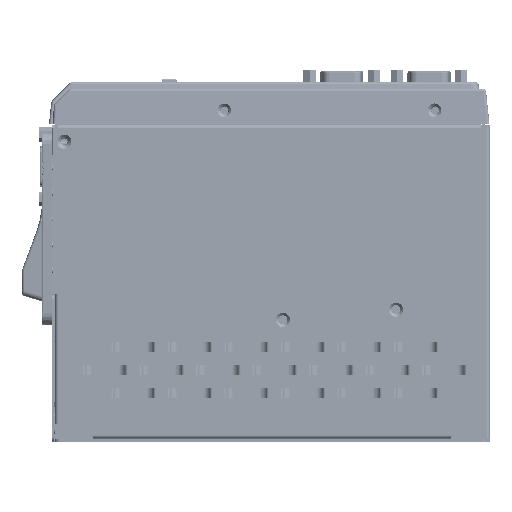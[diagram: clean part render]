
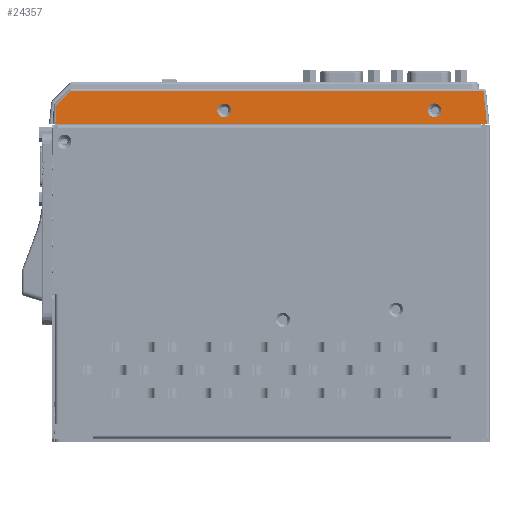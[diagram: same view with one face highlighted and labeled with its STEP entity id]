
A CAD part, front view. The second image highlights one B-rep face of the part: STEP entity #24357.
In plain terms, the highlighted planar face has unit normal (0, -0.999, 0.052).
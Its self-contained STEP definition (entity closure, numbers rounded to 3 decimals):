
#8860 = EDGE_CURVE ( 'NONE', #8866, #9126, #44046, .T. ) ;
#8866 = VERTEX_POINT ( 'NONE', #44053 ) ;
#9040 = VERTEX_POINT ( 'NONE', #45484 ) ;
#9056 = EDGE_CURVE ( 'NONE', #9058, #9040, #45418, .T. ) ;
#9058 = VERTEX_POINT ( 'NONE', #45415 ) ;
#9126 = VERTEX_POINT ( 'NONE', #46705 ) ;
#19108 = VERTEX_POINT ( 'NONE', #111988 ) ;
#19228 = VERTEX_POINT ( 'NONE', #113533 ) ;
#19414 = VERTEX_POINT ( 'NONE', #114808 ) ;
#21701 = EDGE_CURVE ( 'NONE', #9126, #8866, #134106, .T. ) ;
#21830 = EDGE_CURVE ( 'NONE', #19108, #19228, #135096, .T. ) ;
#21872 = EDGE_CURVE ( 'NONE', #9040, #9058, #135347, .T. ) ;
#22011 = EDGE_CURVE ( 'NONE', #19414, #19108, #136599, .T. ) ;
#22167 = VERTEX_POINT ( 'NONE', #137767 ) ;
#22179 = EDGE_CURVE ( 'NONE', #19228, #22167, #137758, .T. ) ;
#22197 = VERTEX_POINT ( 'NONE', #138215 ) ;
#22443 = EDGE_CURVE ( 'NONE', #22197, #19414, #140665, .T. ) ;
#24357 = ADVANCED_FACE ( 'NONE', ( #153634, #153633, #153630 ), #153817, .T. ) ;
#24361 = EDGE_LOOP ( 'NONE', ( #24623, #24631, #24664, #24669, #24675 ) ) ;
#24448 = ORIENTED_EDGE ( 'NONE', *, *, #8860, .T. ) ;
#24456 = ORIENTED_EDGE ( 'NONE', *, *, #21701, .T. ) ;
#24462 = EDGE_LOOP ( 'NONE', ( #24472, #24486 ) ) ;
#24472 = ORIENTED_EDGE ( 'NONE', *, *, #9056, .T. ) ;
#24486 = ORIENTED_EDGE ( 'NONE', *, *, #21872, .T. ) ;
#24623 = ORIENTED_EDGE ( 'NONE', *, *, #22179, .T. ) ;
#24631 = ORIENTED_EDGE ( 'NONE', *, *, #24655, .T. ) ;
#24655 = EDGE_CURVE ( 'NONE', #22167, #22197, #155396, .T. ) ;
#24664 = ORIENTED_EDGE ( 'NONE', *, *, #22443, .T. ) ;
#24669 = ORIENTED_EDGE ( 'NONE', *, *, #22011, .T. ) ;
#24675 = ORIENTED_EDGE ( 'NONE', *, *, #21830, .T. ) ;
#24679 = EDGE_LOOP ( 'NONE', ( #24448, #24456 ) ) ;
#43999 = CARTESIAN_POINT ( 'NONE',  ( 75.685, -145.612, 3.539 ) ) ;
#44003 = CARTESIAN_POINT ( 'NONE',  ( 74.99, -145.612, 3.539 ) ) ;
#44007 = CARTESIAN_POINT ( 'NONE',  ( 74.302, -145.627, 3.254 ) ) ;
#44009 = CARTESIAN_POINT ( 'NONE',  ( 73.319, -145.678, 2.271 ) ) ;
#44013 = CARTESIAN_POINT ( 'NONE',  ( 73.034, -145.715, 1.583 ) ) ;
#44014 = CARTESIAN_POINT ( 'NONE',  ( 73.034, -145.787, 0.194 ) ) ;
#44017 = CARTESIAN_POINT ( 'NONE',  ( 73.319, -145.823, -0.494 ) ) ;
#44018 = CARTESIAN_POINT ( 'NONE',  ( 74.302, -145.875, -1.477 ) ) ;
#44021 = CARTESIAN_POINT ( 'NONE',  ( 74.99, -145.89, -1.762 ) ) ;
#44023 = CARTESIAN_POINT ( 'NONE',  ( 75.685, -145.89, -1.762 ) ) ;
#44046 = B_SPLINE_CURVE_WITH_KNOTS ( 'NONE', 3,
 ( #44023, #44021, #44018, #44017, #44014, #44013, #44009, #44007, #44003, #43999 ),
 .UNSPECIFIED., .F., .F.,
 ( 4, 2, 2, 2, 4 ),
 ( 0.008, 0.01, 0.012, 0.015, 0.017 ),
 .UNSPECIFIED. ) ;
#44053 = CARTESIAN_POINT ( 'NONE',  ( 75.685, -145.89, -1.762 ) ) ;
#45357 = CARTESIAN_POINT ( 'NONE',  ( -6.91, -145.612, 3.539 ) ) ;
#45361 = CARTESIAN_POINT ( 'NONE',  ( -7.598, -145.627, 3.254 ) ) ;
#45365 = CARTESIAN_POINT ( 'NONE',  ( -8.581, -145.678, 2.271 ) ) ;
#45369 = CARTESIAN_POINT ( 'NONE',  ( -8.866, -145.715, 1.583 ) ) ;
#45375 = CARTESIAN_POINT ( 'NONE',  ( -8.866, -145.787, 0.194 ) ) ;
#45379 = CARTESIAN_POINT ( 'NONE',  ( -8.581, -145.823, -0.494 ) ) ;
#45383 = CARTESIAN_POINT ( 'NONE',  ( -7.598, -145.875, -1.477 ) ) ;
#45387 = CARTESIAN_POINT ( 'NONE',  ( -6.91, -145.89, -1.762 ) ) ;
#45390 = CARTESIAN_POINT ( 'NONE',  ( -6.215, -145.89, -1.762 ) ) ;
#45415 = CARTESIAN_POINT ( 'NONE',  ( -6.215, -145.89, -1.762 ) ) ;
#45418 = B_SPLINE_CURVE_WITH_KNOTS ( 'NONE', 3,
 ( #45390, #45387, #45383, #45379, #45375, #45369, #45365, #45361, #45357, #45693 ),
 .UNSPECIFIED., .F., .F.,
 ( 4, 2, 2, 2, 4 ),
 ( 0.008, 0.01, 0.012, 0.015, 0.017 ),
 .UNSPECIFIED. ) ;
#45484 = CARTESIAN_POINT ( 'NONE',  ( -6.215, -145.612, 3.539 ) ) ;
#45693 = CARTESIAN_POINT ( 'NONE',  ( -6.215, -145.612, 3.539 ) ) ;
#46705 = CARTESIAN_POINT ( 'NONE',  ( 75.685, -145.612, 3.539 ) ) ;
#111988 = CARTESIAN_POINT ( 'NONE',  ( -65.88, -145.358, 8.391 ) ) ;
#113533 = CARTESIAN_POINT ( 'NONE',  ( -71.546, -145.655, 2.725 ) ) ;
#114808 = CARTESIAN_POINT ( 'NONE',  ( 94.744, -145.358, 8.391 ) ) ;
#134053 = CARTESIAN_POINT ( 'NONE',  ( 78.05, -145.678, 2.271 ) ) ;
#134058 = CARTESIAN_POINT ( 'NONE',  ( 77.067, -145.627, 3.254 ) ) ;
#134064 = CARTESIAN_POINT ( 'NONE',  ( 76.379, -145.612, 3.539 ) ) ;
#134069 = CARTESIAN_POINT ( 'NONE',  ( 75.685, -145.612, 3.539 ) ) ;
#134106 = B_SPLINE_CURVE_WITH_KNOTS ( 'NONE', 3,
 ( #134069, #134064, #134058, #134053, #134371, #134368, #134366, #134363, #134359, #134356 ),
 .UNSPECIFIED., .F., .F.,
 ( 4, 2, 2, 2, 4 ),
 ( 0., 0.002, 0.004, 0.006, 0.008 ),
 .UNSPECIFIED. ) ;
#134356 = CARTESIAN_POINT ( 'NONE',  ( 75.685, -145.89, -1.762 ) ) ;
#134359 = CARTESIAN_POINT ( 'NONE',  ( 76.379, -145.89, -1.762 ) ) ;
#134363 = CARTESIAN_POINT ( 'NONE',  ( 77.067, -145.875, -1.477 ) ) ;
#134366 = CARTESIAN_POINT ( 'NONE',  ( 78.05, -145.823, -0.494 ) ) ;
#134368 = CARTESIAN_POINT ( 'NONE',  ( 78.335, -145.787, 0.194 ) ) ;
#134371 = CARTESIAN_POINT ( 'NONE',  ( 78.335, -145.715, 1.583 ) ) ;
#135089 = DIRECTION ( 'NONE',  ( -0.707, -0.037, -0.707 ) ) ;
#135090 = VECTOR ( 'NONE', #135089, 1000. ) ;
#135093 = CARTESIAN_POINT ( 'NONE',  ( -65.88, -145.358, 8.391 ) ) ;
#135096 = LINE ( 'NONE', #135093, #135090 ) ;
#135312 = CARTESIAN_POINT ( 'NONE',  ( -4.833, -145.627, 3.254 ) ) ;
#135314 = CARTESIAN_POINT ( 'NONE',  ( -5.521, -145.612, 3.539 ) ) ;
#135318 = CARTESIAN_POINT ( 'NONE',  ( -6.215, -145.612, 3.539 ) ) ;
#135347 = B_SPLINE_CURVE_WITH_KNOTS ( 'NONE', 3,
 ( #135318, #135314, #135312, #135626, #135623, #135620, #135616, #135610, #135606, #135601 ),
 .UNSPECIFIED., .F., .F.,
 ( 4, 2, 2, 2, 4 ),
 ( 0., 0.002, 0.004, 0.006, 0.008 ),
 .UNSPECIFIED. ) ;
#135601 = CARTESIAN_POINT ( 'NONE',  ( -6.215, -145.89, -1.762 ) ) ;
#135606 = CARTESIAN_POINT ( 'NONE',  ( -5.521, -145.89, -1.762 ) ) ;
#135610 = CARTESIAN_POINT ( 'NONE',  ( -4.833, -145.875, -1.477 ) ) ;
#135616 = CARTESIAN_POINT ( 'NONE',  ( -3.85, -145.823, -0.494 ) ) ;
#135620 = CARTESIAN_POINT ( 'NONE',  ( -3.565, -145.787, 0.194 ) ) ;
#135623 = CARTESIAN_POINT ( 'NONE',  ( -3.565, -145.715, 1.583 ) ) ;
#135626 = CARTESIAN_POINT ( 'NONE',  ( -3.85, -145.678, 2.271 ) ) ;
#136588 = DIRECTION ( 'NONE',  ( -1., 0., 0. ) ) ;
#136591 = VECTOR ( 'NONE', #136588, 1000. ) ;
#136596 = CARTESIAN_POINT ( 'NONE',  ( 158.654, -145.358, 8.391 ) ) ;
#136599 = LINE ( 'NONE', #136596, #136591 ) ;
#137758 = LINE ( 'NONE', #138034, #138030 ) ;
#137767 = CARTESIAN_POINT ( 'NONE',  ( -71.917, -146.026, -4.362 ) ) ;
#138027 = DIRECTION ( 'NONE',  ( -0.052, -0.052, -0.997 ) ) ;
#138030 = VECTOR ( 'NONE', #138027, 1000. ) ;
#138034 = CARTESIAN_POINT ( 'NONE',  ( -71.546, -145.655, 2.725 ) ) ;
#138215 = CARTESIAN_POINT ( 'NONE',  ( 96.084, -146.026, -4.362 ) ) ;
#140657 = DIRECTION ( 'NONE',  ( -0.104, 0.052, 0.993 ) ) ;
#140659 = VECTOR ( 'NONE', #140657, 1000. ) ;
#140663 = CARTESIAN_POINT ( 'NONE',  ( 96.084, -146.026, -4.362 ) ) ;
#140665 = LINE ( 'NONE', #140663, #140659 ) ;
#153630 = FACE_BOUND ( 'NONE', #24462, .T. ) ;
#153633 = FACE_BOUND ( 'NONE', #24679, .T. ) ;
#153634 = FACE_OUTER_BOUND ( 'NONE', #24361, .T. ) ;
#153800 = DIRECTION ( 'NONE',  ( 0., 0.052, 0.999 ) ) ;
#153804 = DIRECTION ( 'NONE',  ( 0., -0.999, 0.052 ) ) ;
#153807 = CARTESIAN_POINT ( 'NONE',  ( 158.654, -146.026, -4.362 ) ) ;
#153808 = AXIS2_PLACEMENT_3D ( 'NONE', #153807, #153804, #153800 ) ;
#153817 = PLANE ( 'NONE',  #153808 ) ;
#155396 = LINE ( 'NONE', #155498, #155495 ) ;
#155495 = VECTOR ( 'NONE', #155669, 1000. ) ;
#155498 = CARTESIAN_POINT ( 'NONE',  ( 158.654, -146.026, -4.362 ) ) ;
#155669 = DIRECTION ( 'NONE',  ( 1., 0., 0. ) ) ;
